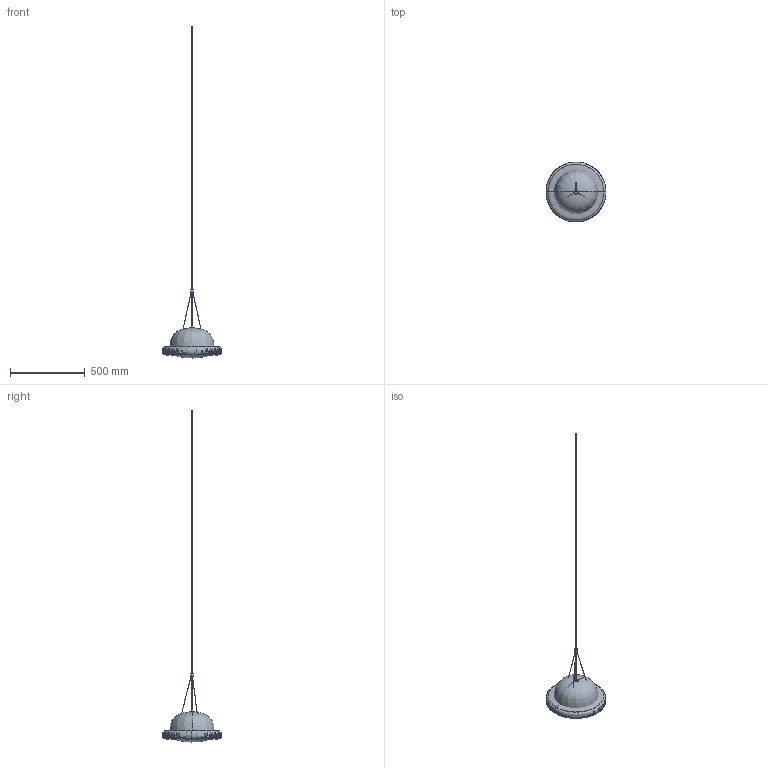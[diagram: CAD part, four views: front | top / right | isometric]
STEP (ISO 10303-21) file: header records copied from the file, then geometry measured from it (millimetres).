
FILE_DESCRIPTION(/* description */ (''),/* implementation_level */ '2;1');
FILE_NAME(/* name */ 'ILKW_MAGRITTE40_Pendant_3D',/* time_stamp */ '2026-08-28T16:56:16+09:00',/* author */ (''),/* organization */ (''),/* preprocessor_version */ 'ST-DEVELOPER v19.2',/* originating_system */ 'Rhino 8.21',/* authorisation */ '');
FILE_SCHEMA (('CONFIG_CONTROL_DESIGN'));
Length unit declared in the file: millimetre
Products named in the file (1): Document
Bounding box: 399.99 x 400 x 2218.1 mm (x, y, z)
Volume: 25601228.9 mm3; surface area: 409027.2 mm2
Topology: 8 solids, 8 shells, 35 faces, 56 edges, 35 vertices
Faces by surface type: cylinder 16, plane 15, bspline 4
Entity records: 2250 total; most frequent: CARTESIAN_POINT 1578, ORIENTED_EDGE 108, DIRECTION 103, AXIS2_PLACEMENT_3D 67, EDGE_CURVE 54, ADVANCED_FACE 35, FACE_OUTER_BOUND 35, EDGE_LOOP 35
